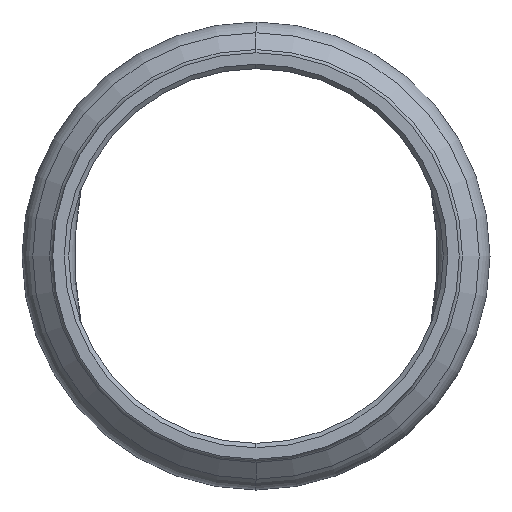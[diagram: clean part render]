
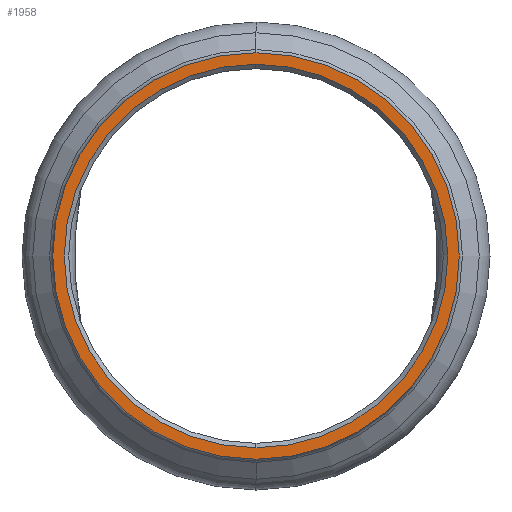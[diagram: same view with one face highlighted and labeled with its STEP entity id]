
A CAD part, left-side view. The second image highlights one B-rep face of the part: STEP entity #1958.
In plain terms, the highlighted planar face has unit normal (-1, 0, 0).
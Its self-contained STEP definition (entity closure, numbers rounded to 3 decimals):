
#348 = VERTEX_POINT ( 'NONE', #1532 ) ;
#452 = AXIS2_PLACEMENT_3D ( 'NONE', #1925, #2360, #1061 ) ;
#539 = AXIS2_PLACEMENT_3D ( 'NONE', #1150, #2661, #1370 ) ;
#554 = CARTESIAN_POINT ( 'NONE',  ( -42., 0., 0. ) ) ;
#621 = EDGE_LOOP ( 'NONE', ( #853, #2509 ) ) ;
#681 = DIRECTION ( 'NONE',  ( -1., 0., 0. ) ) ;
#763 = DIRECTION ( 'NONE',  ( 0., 0., 1. ) ) ;
#785 = FACE_BOUND ( 'NONE', #621, .T. ) ;
#853 = ORIENTED_EDGE ( 'NONE', *, *, #2160, .T. ) ;
#891 = CIRCLE ( 'NONE', #1877, 21.7 ) ;
#951 = CIRCLE ( 'NONE', #1584, 23. ) ;
#992 = AXIS2_PLACEMENT_3D ( 'NONE', #1964, #681, #2187 ) ;
#1060 = CARTESIAN_POINT ( 'NONE',  ( -42., 0., -23. ) ) ;
#1061 = DIRECTION ( 'NONE',  ( 0., 0., -1. ) ) ;
#1150 = CARTESIAN_POINT ( 'NONE',  ( -42., 0., 0. ) ) ;
#1187 = DIRECTION ( 'NONE',  ( 1., 0., 0. ) ) ;
#1290 = FACE_OUTER_BOUND ( 'NONE', #2305, .T. ) ;
#1318 = CIRCLE ( 'NONE', #539, 21.7 ) ;
#1355 = ORIENTED_EDGE ( 'NONE', *, *, #2757, .T. ) ;
#1359 = VERTEX_POINT ( 'NONE', #1060 ) ;
#1370 = DIRECTION ( 'NONE',  ( 0., 0., 1. ) ) ;
#1532 = CARTESIAN_POINT ( 'NONE',  ( -42., 0., -21.7 ) ) ;
#1584 = AXIS2_PLACEMENT_3D ( 'NONE', #554, #2061, #763 ) ;
#1679 = EDGE_CURVE ( 'NONE', #1359, #2003, #951, .T. ) ;
#1693 = EDGE_CURVE ( 'NONE', #348, #1971, #891, .T. ) ;
#1877 = AXIS2_PLACEMENT_3D ( 'NONE', #2488, #1187, #2702 ) ;
#1925 = CARTESIAN_POINT ( 'NONE',  ( -42., 21.2, 0. ) ) ;
#1958 = ADVANCED_FACE ( 'NONE', ( #785, #1290 ), #2563, .T. ) ;
#1964 = CARTESIAN_POINT ( 'NONE',  ( -42., 0., 0. ) ) ;
#1971 = VERTEX_POINT ( 'NONE', #2154 ) ;
#2003 = VERTEX_POINT ( 'NONE', #2601 ) ;
#2061 = DIRECTION ( 'NONE',  ( -1., 0., 0. ) ) ;
#2154 = CARTESIAN_POINT ( 'NONE',  ( -42., 0., 21.7 ) ) ;
#2160 = EDGE_CURVE ( 'NONE', #1971, #348, #1318, .T. ) ;
#2187 = DIRECTION ( 'NONE',  ( 0., 0., 1. ) ) ;
#2305 = EDGE_LOOP ( 'NONE', ( #1355, #2436 ) ) ;
#2360 = DIRECTION ( 'NONE',  ( -1., 0., 0. ) ) ;
#2436 = ORIENTED_EDGE ( 'NONE', *, *, #1679, .T. ) ;
#2488 = CARTESIAN_POINT ( 'NONE',  ( -42., 0., 0. ) ) ;
#2509 = ORIENTED_EDGE ( 'NONE', *, *, #1693, .T. ) ;
#2563 = PLANE ( 'NONE',  #452 ) ;
#2580 = CIRCLE ( 'NONE', #992, 23. ) ;
#2601 = CARTESIAN_POINT ( 'NONE',  ( -42., 0., 23. ) ) ;
#2661 = DIRECTION ( 'NONE',  ( 1., 0., 0. ) ) ;
#2702 = DIRECTION ( 'NONE',  ( 0., 0., 1. ) ) ;
#2757 = EDGE_CURVE ( 'NONE', #2003, #1359, #2580, .T. ) ;
